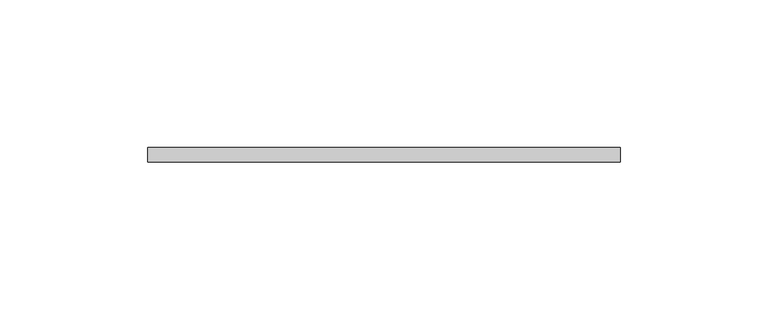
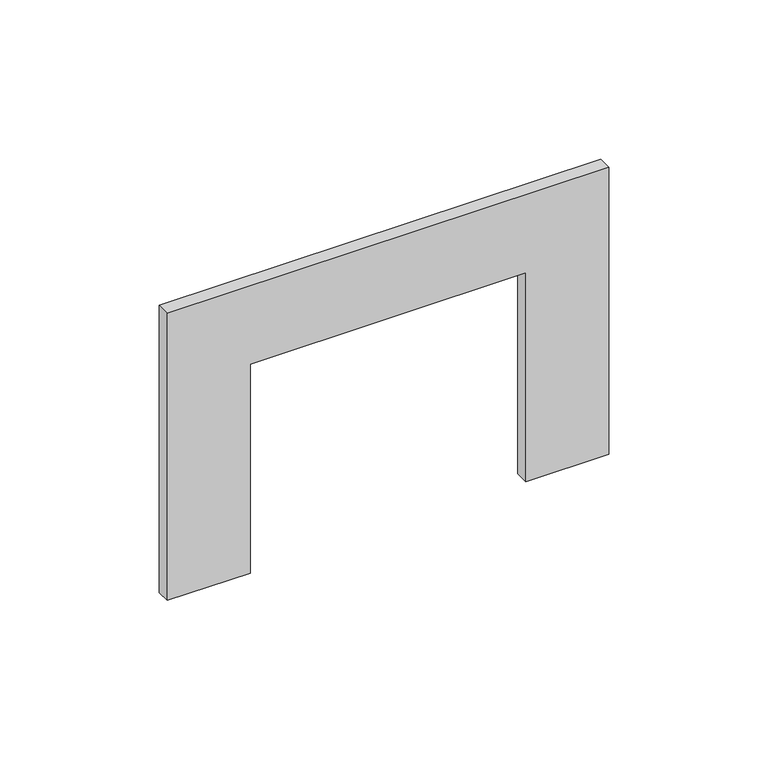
"""IFC4 building model written with IfcOpenShell, lengths in millimetres: proxy geometry, КНС_РамкаДляВводаRQM_ILC_DKC : TA-GN 60x...."""

from ifc_helpers import new_model, si_unit, frame, origin, place, context, project, spatial, polyline, outline, extrude, source, transform, mapped, element, save


def electrical_fixtures_43228b79(model_context):
    return source(origin(), model_context, "Body", "SweptSolid", [
        extrude(outline(polyline([(110.0, -80.0), (0.0, -80.0), (0.0, -50.0), (80.0, -50.0), (80.0, 50.0), (0.0, 50.0), (0.0, 80.0), (110.0, 80.0), (110.0, -80.0)])), frame((0.0, -5.0, 0.0), z_axis=(0.0, 1.0, 0.0), x_axis=(0.0, 0.0, 1.0)), (0.0, 0.0, 1.0), 5.0),
    ])


if __name__ == "__main__":
    model = new_model("IFC4")
    model_context = context("Model", 3, world=origin())
    ifc_project = project(units=[si_unit("LENGTHUNIT", "METRE", prefix="MILLI")], contexts=[model_context])
    site = spatial("IfcSite", under=ifc_project)
    building = spatial("IfcBuilding", under=site)
    placement = place(None, origin())
    electrical_fixtures_shape = electrical_fixtures_43228b79(model_context)
    element("IfcBuildingElementProxy", 1, Name="КНС_РамкаДляВводаRQM_ILC_DKC : TA-GN 60x...", ObjectType="КНС_РамкаДляВводаRQM_ILC_DKC : TA-GN 60x...", at=placement, inside=building, context=model_context, shape_type="MappedRepresentation", body=[
        mapped(electrical_fixtures_shape, transform((0.0, 0.0, 0.0), x_axis=(1.0, 0.0, 0.0), y_axis=(0.0, 1.0, 0.0), z_axis=(0.0, 0.0, 1.0))),
    ])
    save(model, "model.ifc")
